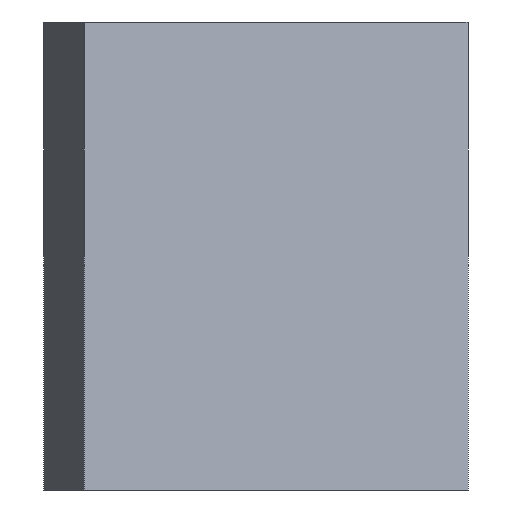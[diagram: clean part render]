
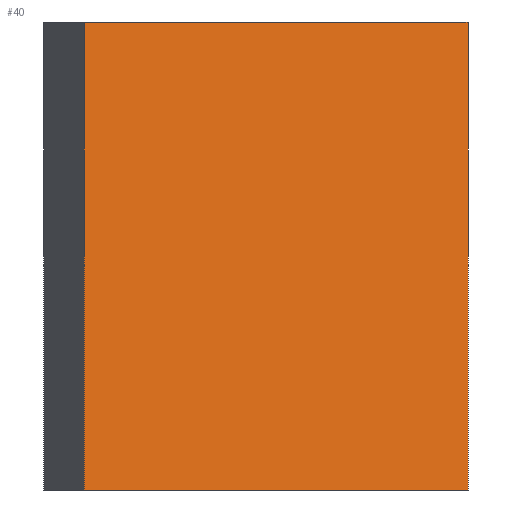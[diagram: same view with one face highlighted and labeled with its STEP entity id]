
A CAD part, left-side view. The second image highlights one B-rep face of the part: STEP entity #40.
In plain terms, the highlighted planar face has unit normal (-0.934, -0.358, 0).
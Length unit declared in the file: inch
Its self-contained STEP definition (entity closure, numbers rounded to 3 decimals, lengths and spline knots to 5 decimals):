
#21 = LINE ( 'NONE', #112, #428 ) ;
#40 = ADVANCED_FACE ( 'NONE', ( #270 ), #99, .T. ) ;
#44 = CARTESIAN_POINT ( 'NONE',  ( -4.31753, 0.82036, 0. ) ) ;
#47 = CARTESIAN_POINT ( 'NONE',  ( -4.00262, 0., 0. ) ) ;
#80 = LINE ( 'NONE', #286, #187 ) ;
#99 = PLANE ( 'NONE',  #331 ) ;
#103 = ORIENTED_EDGE ( 'NONE', *, *, #191, .F. ) ;
#112 = CARTESIAN_POINT ( 'NONE',  ( -4.31753, 0.82036, -1. ) ) ;
#140 = ORIENTED_EDGE ( 'NONE', *, *, #255, .T. ) ;
#149 = ORIENTED_EDGE ( 'NONE', *, *, #280, .F. ) ;
#153 = VERTEX_POINT ( 'NONE', #312 ) ;
#160 = ORIENTED_EDGE ( 'NONE', *, *, #366, .T. ) ;
#173 = LINE ( 'NONE', #278, #371 ) ;
#187 = VECTOR ( 'NONE', #254, 39.37008 ) ;
#191 = EDGE_CURVE ( 'NONE', #415, #260, #279, .T. ) ;
#197 = DIRECTION ( 'NONE',  ( -0.934, -0.358, 0. ) ) ;
#234 = DIRECTION ( 'NONE',  ( 0., 0., 1. ) ) ;
#245 = DIRECTION ( 'NONE',  ( 0.358, -0.934, 0. ) ) ;
#254 = DIRECTION ( 'NONE',  ( 0., 0., 1. ) ) ;
#255 = EDGE_CURVE ( 'NONE', #369, #153, #21, .T. ) ;
#260 = VERTEX_POINT ( 'NONE', #47 ) ;
#269 = CARTESIAN_POINT ( 'NONE',  ( -4.31753, 0.82036, -1. ) ) ;
#270 = FACE_OUTER_BOUND ( 'NONE', #425, .T. ) ;
#278 = CARTESIAN_POINT ( 'NONE',  ( -4.00262, 0., -1. ) ) ;
#279 = LINE ( 'NONE', #410, #386 ) ;
#280 = EDGE_CURVE ( 'NONE', #369, #415, #80, .T. ) ;
#285 = DIRECTION ( 'NONE',  ( 0.358, -0.934, 0. ) ) ;
#286 = CARTESIAN_POINT ( 'NONE',  ( -4.31753, 0.82036, -1. ) ) ;
#312 = CARTESIAN_POINT ( 'NONE',  ( -4.00262, 0., -1. ) ) ;
#331 = AXIS2_PLACEMENT_3D ( 'NONE', #396, #197, #404 ) ;
#366 = EDGE_CURVE ( 'NONE', #153, #260, #173, .T. ) ;
#369 = VERTEX_POINT ( 'NONE', #269 ) ;
#371 = VECTOR ( 'NONE', #234, 39.37008 ) ;
#386 = VECTOR ( 'NONE', #285, 39.37008 ) ;
#396 = CARTESIAN_POINT ( 'NONE',  ( -4.31753, 0.82036, -1. ) ) ;
#404 = DIRECTION ( 'NONE',  ( 0.358, -0.934, 0. ) ) ;
#410 = CARTESIAN_POINT ( 'NONE',  ( -4.31753, 0.82036, 0. ) ) ;
#415 = VERTEX_POINT ( 'NONE', #44 ) ;
#425 = EDGE_LOOP ( 'NONE', ( #103, #149, #140, #160 ) ) ;
#428 = VECTOR ( 'NONE', #245, 39.37008 ) ;
